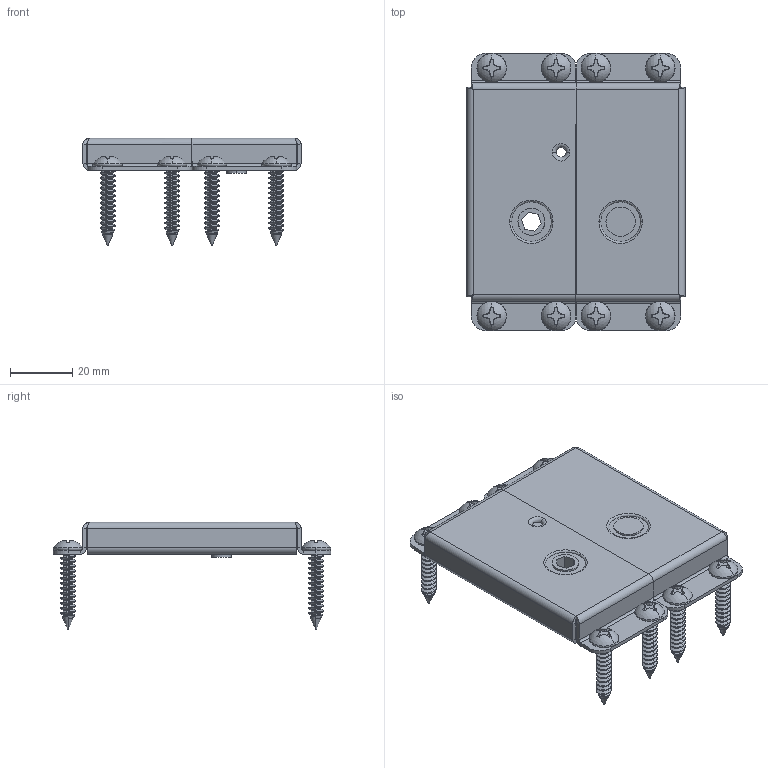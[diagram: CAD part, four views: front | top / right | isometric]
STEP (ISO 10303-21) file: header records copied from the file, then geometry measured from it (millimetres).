
FILE_DESCRIPTION (( 'STEP AP203' ), '1' );
FILE_NAME ('TDS 16-4 ASSY.STEP', '2014-04-05T23:14:16', ( 'Owner' ), ( '' ), 'SwSTEP 2.0', 'SolidWorks 2011', '' );
FILE_SCHEMA (( 'CONFIG_CONTROL_DESIGN' ));
Length unit declared in the file: inch
Products named in the file (10): TYPE 1-SMALL S HOOK ASSY_TDS 36-4A; TYPE 1 - SMALL ACTUATOR; S1125-1R-562; TDS 16-4 ASSY; #10 PHPS_90184A378; LARGE RIVET_.375 LG; TYPE 1 - SMALL S-HOOK; TYPE 1 - SMALL SPRING PLATE; T1 SMALL HEX KEY; R400-1R-562
Assembly tree (16 placements, depth 3):
  TDS 16-4 ASSY
    #10 PHPS_90184A378  x8
    S1125-1R-562
    LARGE RIVET_.375 LG
    T1 SMALL HEX KEY
    TYPE 1-SMALL S HOOK ASSY_TDS 36-4A
      TYPE 1 - SMALL S-HOOK
      TYPE 1 - SMALL ACTUATOR
      TYPE 1 - SMALL SPRING PLATE
    R400-1R-562
Bounding box: 69.85 x 88.9 x 34.35 mm (x, y, z)
Volume: 22268.4 mm3; surface area: 36508 mm2
Topology: 15 solids, 15 shells, 1174 faces, 3263 edges, 2134 vertices
Faces by surface type: cylinder 516, plane 302, bspline 236, cone 72, torus 32, sphere 16
Entity records: 15294 total; most frequent: CARTESIAN_POINT 5479, ORIENTED_EDGE 1878, DIRECTION 1694, EDGE_CURVE 939, AXIS2_PLACEMENT_3D 601, VERTEX_POINT 587, VECTOR 492, LINE 492
